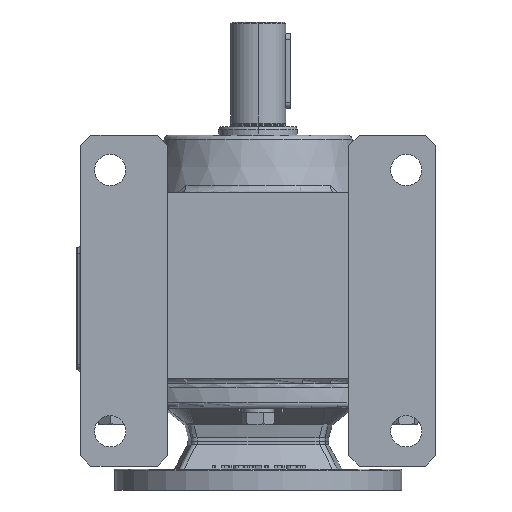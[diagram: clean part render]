
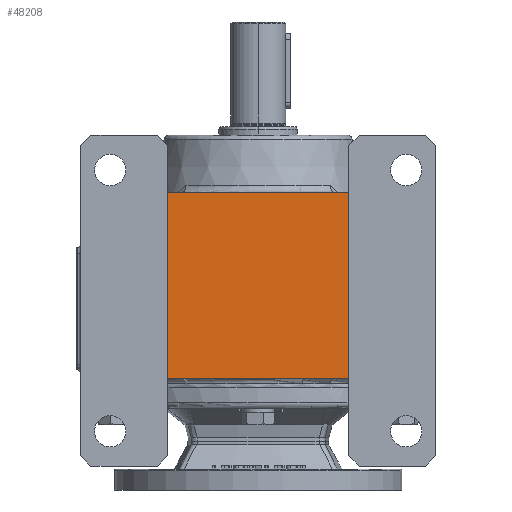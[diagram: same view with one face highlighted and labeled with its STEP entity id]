
A CAD part, front view. The second image highlights one B-rep face of the part: STEP entity #48208.
In plain terms, the highlighted planar face has unit normal (0, -1, 0).
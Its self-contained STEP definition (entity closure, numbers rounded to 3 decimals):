
#491 = AXIS2_PLACEMENT_3D ( 'NONE', #37442, #37443, #37444 ) ;
#496 = FACE_OUTER_BOUND ( 'NONE', #43842, .T. ) ;
#4357 = VECTOR ( 'NONE', #52925, 1000. ) ;
#4358 = VECTOR ( 'NONE', #52928, 1000. ) ;
#4359 = VECTOR ( 'NONE', #52931, 1000. ) ;
#4360 = VECTOR ( 'NONE', #52934, 1000. ) ;
#18655 = VERTEX_POINT ( 'NONE', #66598 ) ;
#18656 = VERTEX_POINT ( 'NONE', #66599 ) ;
#18657 = VERTEX_POINT ( 'NONE', #66600 ) ;
#18658 = VERTEX_POINT ( 'NONE', #66601 ) ;
#26713 = ORIENTED_EDGE ( 'NONE', *, *, #49337, .T. ) ;
#26717 = ORIENTED_EDGE ( 'NONE', *, *, #49338, .T. ) ;
#26720 = ORIENTED_EDGE ( 'NONE', *, *, #49336, .F. ) ;
#26721 = ORIENTED_EDGE ( 'NONE', *, *, #49339, .F. ) ;
#37441 = PLANE ( 'NONE',  #491 ) ;
#37442 = CARTESIAN_POINT ( 'NONE',  ( -114.086, -87., -112. ) ) ;
#37443 = DIRECTION ( 'NONE',  ( 0., 1., 0. ) ) ;
#37444 = DIRECTION ( 'NONE',  ( 0., 0., 1. ) ) ;
#43842 = EDGE_LOOP ( 'NONE', ( #26713, #26720, #26717, #26721 ) ) ;
#48208 = ADVANCED_FACE ( 'NONE', ( #496 ), #37441, .F. ) ;
#49336 = EDGE_CURVE ( 'NONE', #18657, #18656, #52923, .T. ) ;
#49337 = EDGE_CURVE ( 'NONE', #18655, #18656, #52926, .T. ) ;
#49338 = EDGE_CURVE ( 'NONE', #18657, #18658, #52929, .T. ) ;
#49339 = EDGE_CURVE ( 'NONE', #18655, #18658, #52932, .T. ) ;
#52923 = LINE ( 'NONE', #52924, #4357 ) ;
#52924 = CARTESIAN_POINT ( 'NONE',  ( 52., -87., -22. ) ) ;
#52925 = DIRECTION ( 'NONE',  ( 0., 0., -1. ) ) ;
#52926 = LINE ( 'NONE', #52927, #4358 ) ;
#52927 = CARTESIAN_POINT ( 'NONE',  ( -102., -87., -107. ) ) ;
#52928 = DIRECTION ( 'NONE',  ( 1., 0., 0. ) ) ;
#52929 = LINE ( 'NONE', #52930, #4359 ) ;
#52930 = CARTESIAN_POINT ( 'NONE',  ( -114.086, -87., 0. ) ) ;
#52931 = DIRECTION ( 'NONE',  ( -1., 0., 0. ) ) ;
#52932 = LINE ( 'NONE', #52933, #4360 ) ;
#52933 = CARTESIAN_POINT ( 'NONE',  ( -52., -87., -22. ) ) ;
#52934 = DIRECTION ( 'NONE',  ( 0., 0., 1. ) ) ;
#66598 = CARTESIAN_POINT ( 'NONE',  ( -52., -87., -107. ) ) ;
#66599 = CARTESIAN_POINT ( 'NONE',  ( 52., -87., -107. ) ) ;
#66600 = CARTESIAN_POINT ( 'NONE',  ( 52., -87., 0. ) ) ;
#66601 = CARTESIAN_POINT ( 'NONE',  ( -52., -87., 0. ) ) ;
